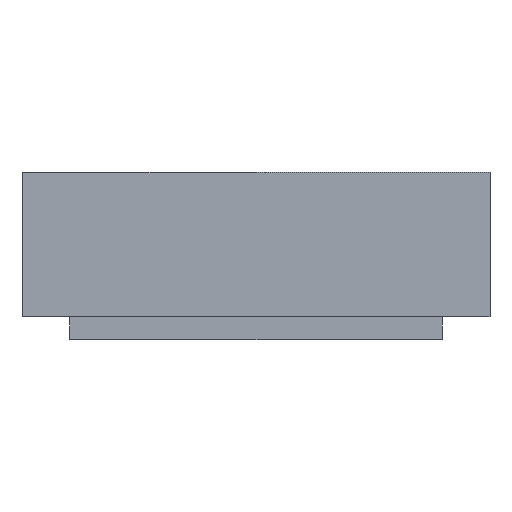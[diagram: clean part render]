
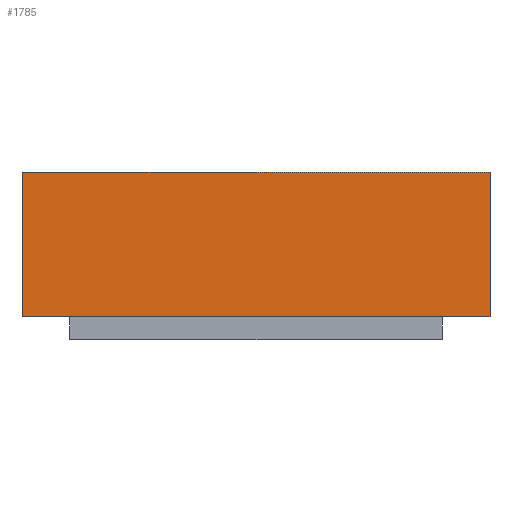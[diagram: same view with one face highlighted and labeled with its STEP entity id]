
A CAD part, left-side view. The second image highlights one B-rep face of the part: STEP entity #1785.
In plain terms, the highlighted planar face has unit normal (-1, 0, 0).
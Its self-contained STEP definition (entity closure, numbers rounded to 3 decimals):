
#126 = PLANE('',#127);
#127 = AXIS2_PLACEMENT_3D('',#128,#129,#130);
#128 = CARTESIAN_POINT('',(-38.34,-24.4,1.5));
#129 = DIRECTION('',(0.,0.,1.));
#130 = DIRECTION('',(1.,0.,0.));
#166 = VERTEX_POINT('',#167);
#167 = CARTESIAN_POINT('',(-32.322,-24.4,1.5));
#204 = PLANE('',#205);
#205 = AXIS2_PLACEMENT_3D('',#206,#207,#208);
#206 = CARTESIAN_POINT('',(-30.672,0.,1.5));
#207 = DIRECTION('',(0.,0.,1.));
#208 = DIRECTION('',(1.,0.,-0.));
#554 = VERTEX_POINT('',#555);
#555 = CARTESIAN_POINT('',(-32.322,24.4,1.5));
#578 = EDGE_CURVE('',#554,#166,#579,.T.);
#579 = SURFACE_CURVE('',#580,(#584,#591),.PCURVE_S1.);
#580 = LINE('',#581,#582);
#581 = CARTESIAN_POINT('',(-32.322,30.672,1.5));
#582 = VECTOR('',#583,1.);
#583 = DIRECTION('',(0.,-1.,0.));
#584 = PCURVE('',#126,#585);
#585 = DEFINITIONAL_REPRESENTATION('',(#586),#590);
#586 = LINE('',#587,#588);
#587 = CARTESIAN_POINT('',(6.018,55.072));
#588 = VECTOR('',#589,1.);
#589 = DIRECTION('',(0.,-1.));
#590 = ( GEOMETRIC_REPRESENTATION_CONTEXT(2) 
PARAMETRIC_REPRESENTATION_CONTEXT() REPRESENTATION_CONTEXT('2D SPACE',''
  ) );
#591 = PCURVE('',#592,#597);
#592 = PLANE('',#593);
#593 = AXIS2_PLACEMENT_3D('',#594,#595,#596);
#594 = CARTESIAN_POINT('',(-32.322,30.672,1.5));
#595 = DIRECTION('',(1.,0.,-0.));
#596 = DIRECTION('',(0.,-1.,0.));
#597 = DEFINITIONAL_REPRESENTATION('',(#598),#602);
#598 = LINE('',#599,#600);
#599 = CARTESIAN_POINT('',(0.,0.));
#600 = VECTOR('',#601,1.);
#601 = DIRECTION('',(1.,0.));
#602 = ( GEOMETRIC_REPRESENTATION_CONTEXT(2) 
PARAMETRIC_REPRESENTATION_CONTEXT() REPRESENTATION_CONTEXT('2D SPACE',''
  ) );
#648 = PLANE('',#649);
#649 = AXIS2_PLACEMENT_3D('',#650,#651,#652);
#650 = CARTESIAN_POINT('',(-30.672,0.,1.5));
#651 = DIRECTION('',(0.,0.,1.));
#652 = DIRECTION('',(1.,0.,-0.));
#1016 = EDGE_CURVE('',#166,#1017,#1019,.T.);
#1017 = VERTEX_POINT('',#1018);
#1018 = CARTESIAN_POINT('',(-32.322,-30.672,1.5));
#1019 = SURFACE_CURVE('',#1020,(#1024,#1031),.PCURVE_S1.);
#1020 = LINE('',#1021,#1022);
#1021 = CARTESIAN_POINT('',(-32.322,30.672,1.5));
#1022 = VECTOR('',#1023,1.);
#1023 = DIRECTION('',(0.,-1.,0.));
#1024 = PCURVE('',#204,#1025);
#1025 = DEFINITIONAL_REPRESENTATION('',(#1026),#1030);
#1026 = LINE('',#1027,#1028);
#1027 = CARTESIAN_POINT('',(-1.65,30.672));
#1028 = VECTOR('',#1029,1.);
#1029 = DIRECTION('',(0.,-1.));
#1030 = ( GEOMETRIC_REPRESENTATION_CONTEXT(2) 
PARAMETRIC_REPRESENTATION_CONTEXT() REPRESENTATION_CONTEXT('2D SPACE',''
  ) );
#1031 = PCURVE('',#592,#1032);
#1032 = DEFINITIONAL_REPRESENTATION('',(#1033),#1037);
#1033 = LINE('',#1034,#1035);
#1034 = CARTESIAN_POINT('',(0.,0.));
#1035 = VECTOR('',#1036,1.);
#1036 = DIRECTION('',(1.,0.));
#1037 = ( GEOMETRIC_REPRESENTATION_CONTEXT(2) 
PARAMETRIC_REPRESENTATION_CONTEXT() REPRESENTATION_CONTEXT('2D SPACE',''
  ) );
#1055 = PLANE('',#1056);
#1056 = AXIS2_PLACEMENT_3D('',#1057,#1058,#1059);
#1057 = CARTESIAN_POINT('',(-32.322,-30.672,1.5));
#1058 = DIRECTION('',(0.,1.,0.));
#1059 = DIRECTION('',(1.,0.,0.));
#1785 = ADVANCED_FACE('',(#1786),#592,.F.);
#1786 = FACE_BOUND('',#1787,.F.);
#1787 = EDGE_LOOP('',(#1788,#1818,#1846,#1867,#1868,#1869));
#1788 = ORIENTED_EDGE('',*,*,#1789,.T.);
#1789 = EDGE_CURVE('',#1790,#1792,#1794,.T.);
#1790 = VERTEX_POINT('',#1791);
#1791 = CARTESIAN_POINT('',(-32.322,30.672,1.5));
#1792 = VERTEX_POINT('',#1793);
#1793 = CARTESIAN_POINT('',(-32.322,30.672,20.4));
#1794 = SURFACE_CURVE('',#1795,(#1799,#1806),.PCURVE_S1.);
#1795 = LINE('',#1796,#1797);
#1796 = CARTESIAN_POINT('',(-32.322,30.672,1.5));
#1797 = VECTOR('',#1798,1.);
#1798 = DIRECTION('',(0.,0.,1.));
#1799 = PCURVE('',#592,#1800);
#1800 = DEFINITIONAL_REPRESENTATION('',(#1801),#1805);
#1801 = LINE('',#1802,#1803);
#1802 = CARTESIAN_POINT('',(0.,0.));
#1803 = VECTOR('',#1804,1.);
#1804 = DIRECTION('',(0.,-1.));
#1805 = ( GEOMETRIC_REPRESENTATION_CONTEXT(2) 
PARAMETRIC_REPRESENTATION_CONTEXT() REPRESENTATION_CONTEXT('2D SPACE',''
  ) );
#1806 = PCURVE('',#1807,#1812);
#1807 = PLANE('',#1808);
#1808 = AXIS2_PLACEMENT_3D('',#1809,#1810,#1811);
#1809 = CARTESIAN_POINT('',(-29.022,30.672,1.5));
#1810 = DIRECTION('',(0.,-1.,0.));
#1811 = DIRECTION('',(-1.,0.,0.));
#1812 = DEFINITIONAL_REPRESENTATION('',(#1813),#1817);
#1813 = LINE('',#1814,#1815);
#1814 = CARTESIAN_POINT('',(3.3,0.));
#1815 = VECTOR('',#1816,1.);
#1816 = DIRECTION('',(0.,-1.));
#1817 = ( GEOMETRIC_REPRESENTATION_CONTEXT(2) 
PARAMETRIC_REPRESENTATION_CONTEXT() REPRESENTATION_CONTEXT('2D SPACE',''
  ) );
#1818 = ORIENTED_EDGE('',*,*,#1819,.T.);
#1819 = EDGE_CURVE('',#1792,#1820,#1822,.T.);
#1820 = VERTEX_POINT('',#1821);
#1821 = CARTESIAN_POINT('',(-32.322,-30.672,20.4));
#1822 = SURFACE_CURVE('',#1823,(#1827,#1834),.PCURVE_S1.);
#1823 = LINE('',#1824,#1825);
#1824 = CARTESIAN_POINT('',(-32.322,30.672,20.4));
#1825 = VECTOR('',#1826,1.);
#1826 = DIRECTION('',(0.,-1.,0.));
#1827 = PCURVE('',#592,#1828);
#1828 = DEFINITIONAL_REPRESENTATION('',(#1829),#1833);
#1829 = LINE('',#1830,#1831);
#1830 = CARTESIAN_POINT('',(0.,-18.9));
#1831 = VECTOR('',#1832,1.);
#1832 = DIRECTION('',(1.,0.));
#1833 = ( GEOMETRIC_REPRESENTATION_CONTEXT(2) 
PARAMETRIC_REPRESENTATION_CONTEXT() REPRESENTATION_CONTEXT('2D SPACE',''
  ) );
#1834 = PCURVE('',#1835,#1840);
#1835 = PLANE('',#1836);
#1836 = AXIS2_PLACEMENT_3D('',#1837,#1838,#1839);
#1837 = CARTESIAN_POINT('',(-30.672,0.,20.4));
#1838 = DIRECTION('',(0.,0.,1.));
#1839 = DIRECTION('',(1.,0.,-0.));
#1840 = DEFINITIONAL_REPRESENTATION('',(#1841),#1845);
#1841 = LINE('',#1842,#1843);
#1842 = CARTESIAN_POINT('',(-1.65,30.672));
#1843 = VECTOR('',#1844,1.);
#1844 = DIRECTION('',(0.,-1.));
#1845 = ( GEOMETRIC_REPRESENTATION_CONTEXT(2) 
PARAMETRIC_REPRESENTATION_CONTEXT() REPRESENTATION_CONTEXT('2D SPACE',''
  ) );
#1846 = ORIENTED_EDGE('',*,*,#1847,.F.);
#1847 = EDGE_CURVE('',#1017,#1820,#1848,.T.);
#1848 = SURFACE_CURVE('',#1849,(#1853,#1860),.PCURVE_S1.);
#1849 = LINE('',#1850,#1851);
#1850 = CARTESIAN_POINT('',(-32.322,-30.672,1.5));
#1851 = VECTOR('',#1852,1.);
#1852 = DIRECTION('',(0.,0.,1.));
#1853 = PCURVE('',#592,#1854);
#1854 = DEFINITIONAL_REPRESENTATION('',(#1855),#1859);
#1855 = LINE('',#1856,#1857);
#1856 = CARTESIAN_POINT('',(61.344,0.));
#1857 = VECTOR('',#1858,1.);
#1858 = DIRECTION('',(0.,-1.));
#1859 = ( GEOMETRIC_REPRESENTATION_CONTEXT(2) 
PARAMETRIC_REPRESENTATION_CONTEXT() REPRESENTATION_CONTEXT('2D SPACE',''
  ) );
#1860 = PCURVE('',#1055,#1861);
#1861 = DEFINITIONAL_REPRESENTATION('',(#1862),#1866);
#1862 = LINE('',#1863,#1864);
#1863 = CARTESIAN_POINT('',(0.,0.));
#1864 = VECTOR('',#1865,1.);
#1865 = DIRECTION('',(0.,-1.));
#1866 = ( GEOMETRIC_REPRESENTATION_CONTEXT(2) 
PARAMETRIC_REPRESENTATION_CONTEXT() REPRESENTATION_CONTEXT('2D SPACE',''
  ) );
#1867 = ORIENTED_EDGE('',*,*,#1016,.F.);
#1868 = ORIENTED_EDGE('',*,*,#578,.F.);
#1869 = ORIENTED_EDGE('',*,*,#1870,.F.);
#1870 = EDGE_CURVE('',#1790,#554,#1871,.T.);
#1871 = SURFACE_CURVE('',#1872,(#1876,#1883),.PCURVE_S1.);
#1872 = LINE('',#1873,#1874);
#1873 = CARTESIAN_POINT('',(-32.322,30.672,1.5));
#1874 = VECTOR('',#1875,1.);
#1875 = DIRECTION('',(0.,-1.,0.));
#1876 = PCURVE('',#592,#1877);
#1877 = DEFINITIONAL_REPRESENTATION('',(#1878),#1882);
#1878 = LINE('',#1879,#1880);
#1879 = CARTESIAN_POINT('',(0.,0.));
#1880 = VECTOR('',#1881,1.);
#1881 = DIRECTION('',(1.,0.));
#1882 = ( GEOMETRIC_REPRESENTATION_CONTEXT(2) 
PARAMETRIC_REPRESENTATION_CONTEXT() REPRESENTATION_CONTEXT('2D SPACE',''
  ) );
#1883 = PCURVE('',#648,#1884);
#1884 = DEFINITIONAL_REPRESENTATION('',(#1885),#1889);
#1885 = LINE('',#1886,#1887);
#1886 = CARTESIAN_POINT('',(-1.65,30.672));
#1887 = VECTOR('',#1888,1.);
#1888 = DIRECTION('',(0.,-1.));
#1889 = ( GEOMETRIC_REPRESENTATION_CONTEXT(2) 
PARAMETRIC_REPRESENTATION_CONTEXT() REPRESENTATION_CONTEXT('2D SPACE',''
  ) );
